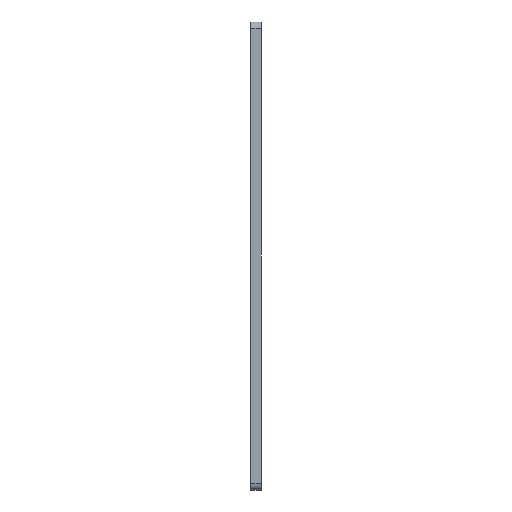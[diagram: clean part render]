
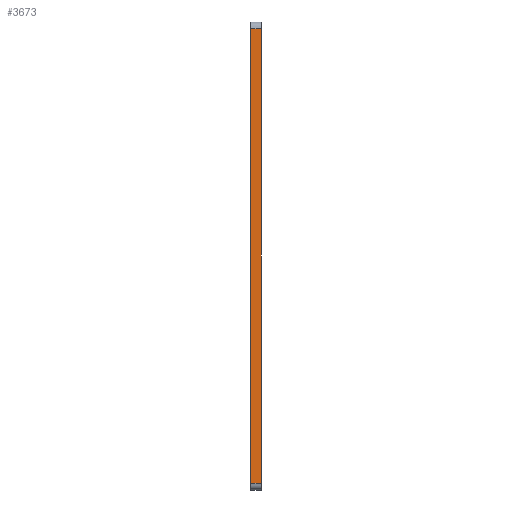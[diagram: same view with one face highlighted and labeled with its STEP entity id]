
A CAD part, left-side view. The second image highlights one B-rep face of the part: STEP entity #3673.
In plain terms, the highlighted planar face has unit normal (-1, 0, 0).
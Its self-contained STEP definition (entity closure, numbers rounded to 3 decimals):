
#37 = VERTEX_POINT ( 'NONE', #4133 ) ;
#662 = EDGE_CURVE ( 'NONE', #10567, #9485, #5451, .T. ) ;
#785 = CARTESIAN_POINT ( 'NONE',  ( -185., 0., -505. ) ) ;
#1787 = DIRECTION ( 'NONE',  ( 0., -1., 0. ) ) ;
#1931 = PLANE ( 'NONE',  #6145 ) ;
#2090 = LINE ( 'NONE', #11952, #7221 ) ;
#2222 = DIRECTION ( 'NONE',  ( 0., 0., 1. ) ) ;
#2583 = ORIENTED_EDGE ( 'NONE', *, *, #12215, .F. ) ;
#2644 = DIRECTION ( 'NONE',  ( 0., 1., 0. ) ) ;
#2677 = VECTOR ( 'NONE', #9387, 1000. ) ;
#3559 = EDGE_CURVE ( 'NONE', #37, #10567, #9509, .T. ) ;
#3673 = ADVANCED_FACE ( 'NONE', ( #6822 ), #1931, .F. ) ;
#4011 = LINE ( 'NONE', #10508, #5931 ) ;
#4029 = CARTESIAN_POINT ( 'NONE',  ( -185., 15., -505. ) ) ;
#4133 = CARTESIAN_POINT ( 'NONE',  ( -185., 0., -495. ) ) ;
#4171 = EDGE_CURVE ( 'NONE', #4181, #37, #4011, .T. ) ;
#4181 = VERTEX_POINT ( 'NONE', #5665 ) ;
#4486 = CARTESIAN_POINT ( 'NONE',  ( -185., 15., 175. ) ) ;
#4623 = VECTOR ( 'NONE', #2644, 1000. ) ;
#5451 = LINE ( 'NONE', #4486, #4623 ) ;
#5665 = CARTESIAN_POINT ( 'NONE',  ( -185., 15., -495. ) ) ;
#5808 = EDGE_LOOP ( 'NONE', ( #2583, #8622, #10884, #11594 ) ) ;
#5931 = VECTOR ( 'NONE', #1787, 1000. ) ;
#6145 = AXIS2_PLACEMENT_3D ( 'NONE', #4029, #11729, #11530 ) ;
#6822 = FACE_OUTER_BOUND ( 'NONE', #5808, .T. ) ;
#7098 = CARTESIAN_POINT ( 'NONE',  ( -185., 15., 175. ) ) ;
#7221 = VECTOR ( 'NONE', #2222, 1000. ) ;
#8622 = ORIENTED_EDGE ( 'NONE', *, *, #4171, .T. ) ;
#9387 = DIRECTION ( 'NONE',  ( 0., 0., 1. ) ) ;
#9485 = VERTEX_POINT ( 'NONE', #7098 ) ;
#9509 = LINE ( 'NONE', #785, #2677 ) ;
#10508 = CARTESIAN_POINT ( 'NONE',  ( -185., 15., -495. ) ) ;
#10567 = VERTEX_POINT ( 'NONE', #12028 ) ;
#10884 = ORIENTED_EDGE ( 'NONE', *, *, #3559, .T. ) ;
#11530 = DIRECTION ( 'NONE',  ( 0., 0., -1. ) ) ;
#11594 = ORIENTED_EDGE ( 'NONE', *, *, #662, .T. ) ;
#11729 = DIRECTION ( 'NONE',  ( 1., 0., 0. ) ) ;
#11952 = CARTESIAN_POINT ( 'NONE',  ( -185., 15., -505. ) ) ;
#12028 = CARTESIAN_POINT ( 'NONE',  ( -185., 0., 175. ) ) ;
#12215 = EDGE_CURVE ( 'NONE', #4181, #9485, #2090, .T. ) ;
